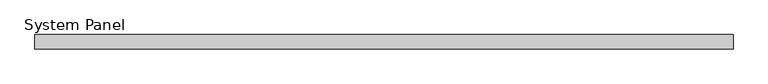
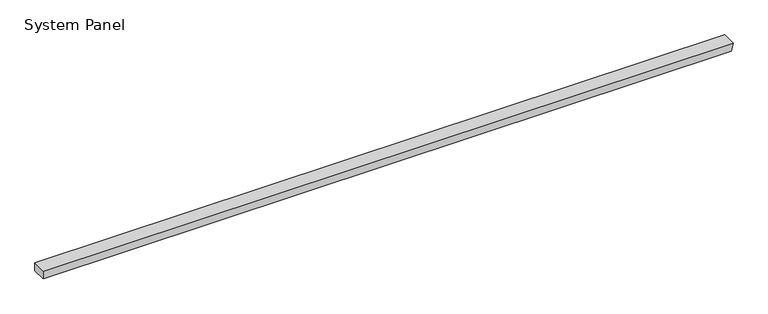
"""IFC4 building model written with IfcOpenShell, lengths in millimetres: plate geometry, System Panel : InsulWall_140mm_Plain_Surfmist."""

from ifc_helpers import new_model, si_unit, frame, origin, place, context, project, spatial, polyline, outline, extrude, source, transform, mapped, element, save


def system_panel_f8faab37(model_context):
    return source(origin(), model_context, "Body", "SweptSolid", [
        extrude(outline(polyline([(0.0, -3395.0), (0.0, 3377.6149856), (79.9704237, 3395.0), (79.9704237, -3395.0), (0.0, -3395.0)])), frame((0.0, -140.0, 0.0), z_axis=(0.0, 1.0, 0.0), x_axis=(0.0, 0.0, 1.0)), (0.0, 0.0, 1.0), 140.0),
    ])


if __name__ == "__main__":
    model = new_model("IFC4")
    model_context = context("Model", 3, world=origin())
    ifc_project = project(units=[si_unit("LENGTHUNIT", "METRE", prefix="MILLI")], contexts=[model_context])
    site = spatial("IfcSite", under=ifc_project)
    building = spatial("IfcBuilding", under=site)
    placement = place(None, origin())
    system_panel_shape = system_panel_f8faab37(model_context)
    element("IfcPlate", 1, ObjectType="System Panel : InsulWall_140mm_Plain_Surfmist", at=placement, inside=building, context=model_context, shape_type="MappedRepresentation", body=[
        mapped(system_panel_shape, transform((0.0, 0.0, 0.0), x_axis=(1.0, 0.0, 0.0), y_axis=(0.0, 1.0, 0.0), z_axis=(0.0, 0.0, 1.0))),
    ])
    save(model, "model.ifc")
